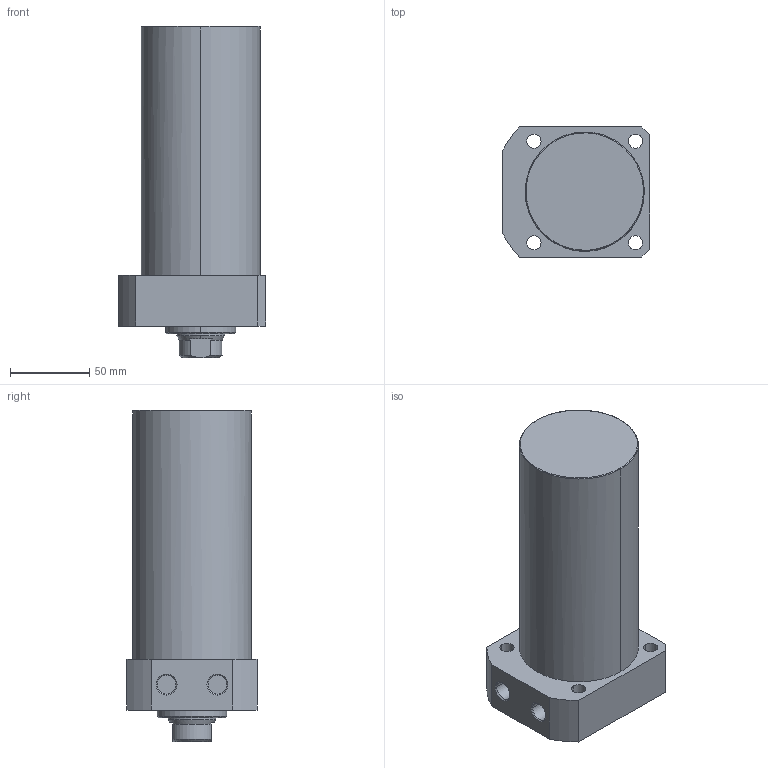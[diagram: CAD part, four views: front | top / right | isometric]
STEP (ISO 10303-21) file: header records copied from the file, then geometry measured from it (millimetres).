
FILE_DESCRIPTION((' '),'2;1');
FILE_NAME( 'TLLR-075CA-120.STEP.stp', '2025-10-24T16:35:06', (' '), ('--- Datakit www.datakit.com---'), ' Datakit CrossCadWare V2024.1 Dec 21 2023', 'Mastercam 2025', ' ');
FILE_SCHEMA(('AUTOMOTIVE_DESIGN { 1 0 10303 214 1 1 1 1 }'));
Length unit declared in the file: millimetre
Products named in the file (1): TLLR-075CA-120
Bounding box: 93 x 82 x 209 mm (x, y, z)
Volume: 928705 mm3; surface area: 70653.5 mm2
Topology: 1 solids, 1 shells, 63 faces, 177 edges, 122 vertices
Faces by surface type: cylinder 28, plane 19, cone 14, torus 2
Entity records: 2168 total; most frequent: CARTESIAN_POINT 405, DIRECTION 400, ORIENTED_EDGE 350, EDGE_CURVE 175, AXIS2_PLACEMENT_3D 169, VERTEX_POINT 122, CIRCLE 105, EDGE_LOOP 79
